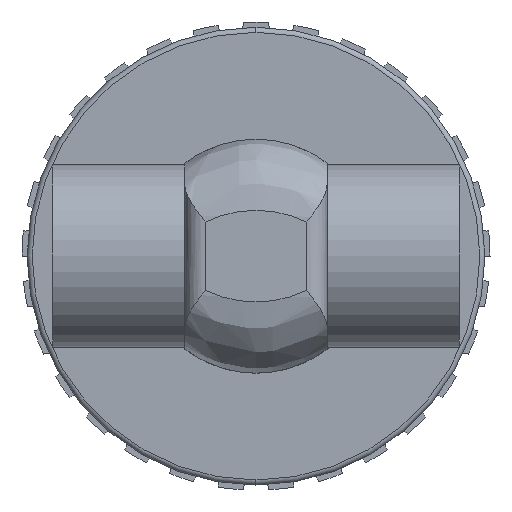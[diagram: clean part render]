
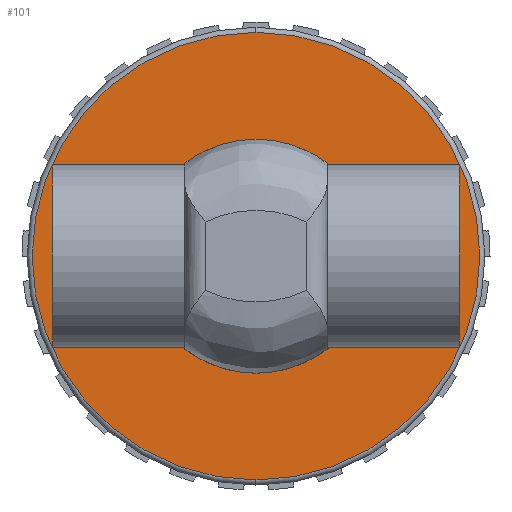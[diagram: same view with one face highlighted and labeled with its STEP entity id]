
A CAD part, front view. The second image highlights one B-rep face of the part: STEP entity #101.
In plain terms, the highlighted planar face has unit normal (0, -1, 0).
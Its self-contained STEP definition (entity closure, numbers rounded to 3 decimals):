
#101 = ADVANCED_FACE ( 'NONE', ( #10272, #10171 ), #10262, .F. ) ;
#2921 = CARTESIAN_POINT ( 'NONE',  ( 0., -3., 0. ) ) ;
#2928 = DIRECTION ( 'NONE',  ( 0., -1., 0. ) ) ;
#2929 = DIRECTION ( 'NONE',  ( 0., 0., 1. ) ) ;
#2977 = CARTESIAN_POINT ( 'NONE',  ( 0., -3., 0. ) ) ;
#2978 = DIRECTION ( 'NONE',  ( 0., -1., 0. ) ) ;
#2979 = DIRECTION ( 'NONE',  ( 0., 0., 1. ) ) ;
#3019 = CARTESIAN_POINT ( 'NONE',  ( 0., -3., 0. ) ) ;
#3020 = DIRECTION ( 'NONE',  ( 0., -1., 0. ) ) ;
#3021 = DIRECTION ( 'NONE',  ( 0., 0., 1. ) ) ;
#3180 = CARTESIAN_POINT ( 'NONE',  ( -9., -3., -16.5 ) ) ;
#3181 = DIRECTION ( 'NONE',  ( 0., 0., 1. ) ) ;
#3182 = CARTESIAN_POINT ( 'NONE',  ( 0., -3., 0. ) ) ;
#3184 = DIRECTION ( 'NONE',  ( 0., -1., 0. ) ) ;
#3185 = DIRECTION ( 'NONE',  ( 0., 0., 1. ) ) ;
#3186 = CARTESIAN_POINT ( 'NONE',  ( 0., -3., 0. ) ) ;
#3203 = DIRECTION ( 'NONE',  ( 0., -1., 0. ) ) ;
#3204 = DIRECTION ( 'NONE',  ( 0., 0., 1. ) ) ;
#3214 = CARTESIAN_POINT ( 'NONE',  ( 9., -3., -16.5 ) ) ;
#3215 = DIRECTION ( 'NONE',  ( 0., 0., 1. ) ) ;
#3555 = CIRCLE ( 'NONE', #3602, 11.5 ) ;
#3565 = CIRCLE ( 'NONE', #3604, 22. ) ;
#3576 = CIRCLE ( 'NONE', #3613, 22. ) ;
#3602 = AXIS2_PLACEMENT_3D ( 'NONE', #2921, #2928, #2929 ) ;
#3604 = AXIS2_PLACEMENT_3D ( 'NONE', #2977, #2978, #2979 ) ;
#3613 = AXIS2_PLACEMENT_3D ( 'NONE', #3019, #3020, #3021 ) ;
#3615 = AXIS2_PLACEMENT_3D ( 'NONE', #3182, #3184, #3185 ) ;
#3619 = AXIS2_PLACEMENT_3D ( 'NONE', #3186, #3203, #3204 ) ;
#3916 = LINE ( 'NONE', #3180, #3917 ) ;
#3917 = VECTOR ( 'NONE', #3181, 1000. ) ;
#3919 = LINE ( 'NONE', #3214, #3923 ) ;
#3920 = CIRCLE ( 'NONE', #3615, 11.5 ) ;
#3922 = CIRCLE ( 'NONE', #3619, 11.5 ) ;
#3923 = VECTOR ( 'NONE', #3215, 1000. ) ;
#5786 = CARTESIAN_POINT ( 'NONE',  ( 0., -3., 11.5 ) ) ;
#5787 = CARTESIAN_POINT ( 'NONE',  ( -9., -3., 7.159 ) ) ;
#5803 = CARTESIAN_POINT ( 'NONE',  ( 0., -3., -22. ) ) ;
#5804 = CARTESIAN_POINT ( 'NONE',  ( 0., -3., 22. ) ) ;
#5825 = CARTESIAN_POINT ( 'NONE',  ( -9., -3., -7.159 ) ) ;
#5826 = CARTESIAN_POINT ( 'NONE',  ( 9., -3., -7.159 ) ) ;
#5827 = CARTESIAN_POINT ( 'NONE',  ( 9., -3., 7.159 ) ) ;
#6697 = EDGE_CURVE ( 'NONE', #8875, #8876, #3555, .T. ) ;
#6709 = EDGE_CURVE ( 'NONE', #8893, #8892, #3565, .T. ) ;
#6719 = EDGE_CURVE ( 'NONE', #8892, #8893, #3576, .T. ) ;
#6748 = EDGE_CURVE ( 'NONE', #8914, #8876, #3916, .T. ) ;
#6749 = EDGE_CURVE ( 'NONE', #8914, #8915, #3920, .T. ) ;
#6751 = EDGE_CURVE ( 'NONE', #8916, #8875, #3922, .T. ) ;
#6756 = EDGE_CURVE ( 'NONE', #8915, #8916, #3919, .T. ) ;
#7182 = AXIS2_PLACEMENT_3D ( 'NONE', #10266, #10293, #10294 ) ;
#8370 = EDGE_LOOP ( 'NONE', ( #9377, #9378 ) ) ;
#8373 = EDGE_LOOP ( 'NONE', ( #9379, #9380, #9381, #9382, #9383 ) ) ;
#8875 = VERTEX_POINT ( 'NONE', #5786 ) ;
#8876 = VERTEX_POINT ( 'NONE', #5787 ) ;
#8892 = VERTEX_POINT ( 'NONE', #5803 ) ;
#8893 = VERTEX_POINT ( 'NONE', #5804 ) ;
#8914 = VERTEX_POINT ( 'NONE', #5825 ) ;
#8915 = VERTEX_POINT ( 'NONE', #5826 ) ;
#8916 = VERTEX_POINT ( 'NONE', #5827 ) ;
#9377 = ORIENTED_EDGE ( 'NONE', *, *, #6709, .T. ) ;
#9378 = ORIENTED_EDGE ( 'NONE', *, *, #6719, .T. ) ;
#9379 = ORIENTED_EDGE ( 'NONE', *, *, #6749, .F. ) ;
#9380 = ORIENTED_EDGE ( 'NONE', *, *, #6748, .T. ) ;
#9381 = ORIENTED_EDGE ( 'NONE', *, *, #6697, .F. ) ;
#9382 = ORIENTED_EDGE ( 'NONE', *, *, #6751, .F. ) ;
#9383 = ORIENTED_EDGE ( 'NONE', *, *, #6756, .F. ) ;
#10171 = FACE_BOUND ( 'NONE', #8373, .T. ) ;
#10262 = PLANE ( 'NONE',  #7182 ) ;
#10266 = CARTESIAN_POINT ( 'NONE',  ( 0., -3., 0. ) ) ;
#10272 = FACE_OUTER_BOUND ( 'NONE', #8370, .T. ) ;
#10293 = DIRECTION ( 'NONE',  ( 0., 1., 0. ) ) ;
#10294 = DIRECTION ( 'NONE',  ( 0., 0., 1. ) ) ;
